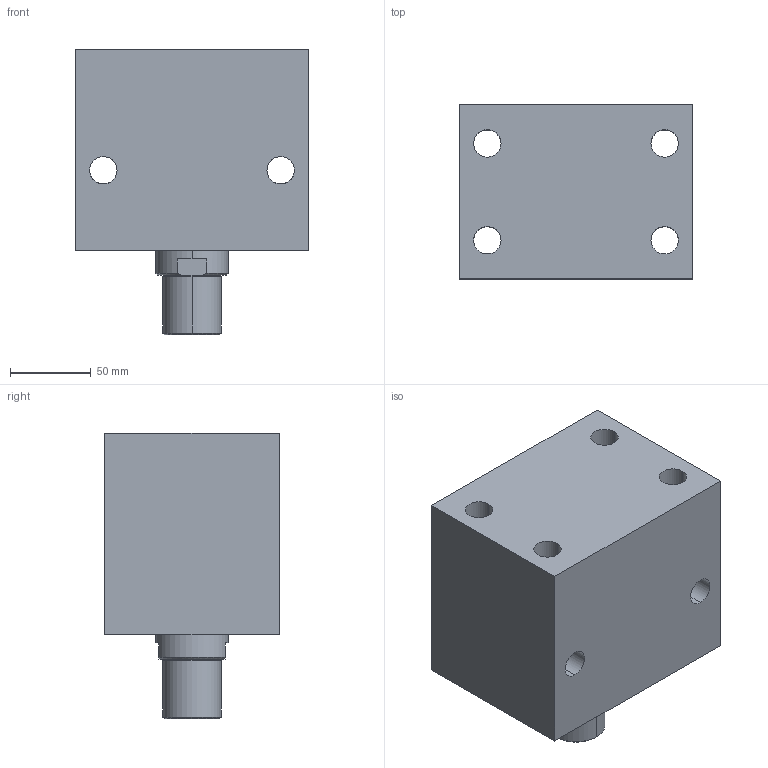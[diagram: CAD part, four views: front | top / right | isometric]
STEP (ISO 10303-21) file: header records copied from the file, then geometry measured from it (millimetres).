
FILE_DESCRIPTION (( 'STEP AP203' ), '1' );
FILE_NAME ('Block cylinder B01C-750M.STEP', '2022-07-09T18:17:03', ( '' ), ( '' ), 'SwSTEP 2.0', 'SolidWorks 2017', '' );
FILE_SCHEMA (( 'CONFIG_CONTROL_DESIGN' ));
Length unit declared in the file: millimetre
Products named in the file (3): Block cylinder B01C-750M; Body_ 750M_50ST; Piston _750M
Assembly tree (2 placements, depth 2):
  Block cylinder B01C-750M
    Body_ 750M_50ST
    Piston _750M
Bounding box: 145 x 108 x 177 mm (x, y, z)
Volume: 2014056.7 mm3; surface area: 160085.8 mm2
Topology: 2 solids, 2 shells, 351 faces, 957 edges, 626 vertices
Faces by surface type: bspline 149, plane 148, cylinder 46, cone 8
Entity records: 17318 total; most frequent: CARTESIAN_POINT 9204, ORIENTED_EDGE 1906, DIRECTION 1101, EDGE_CURVE 953, VERTEX_POINT 626, VECTOR 551, LINE 551, EDGE_LOOP 391
